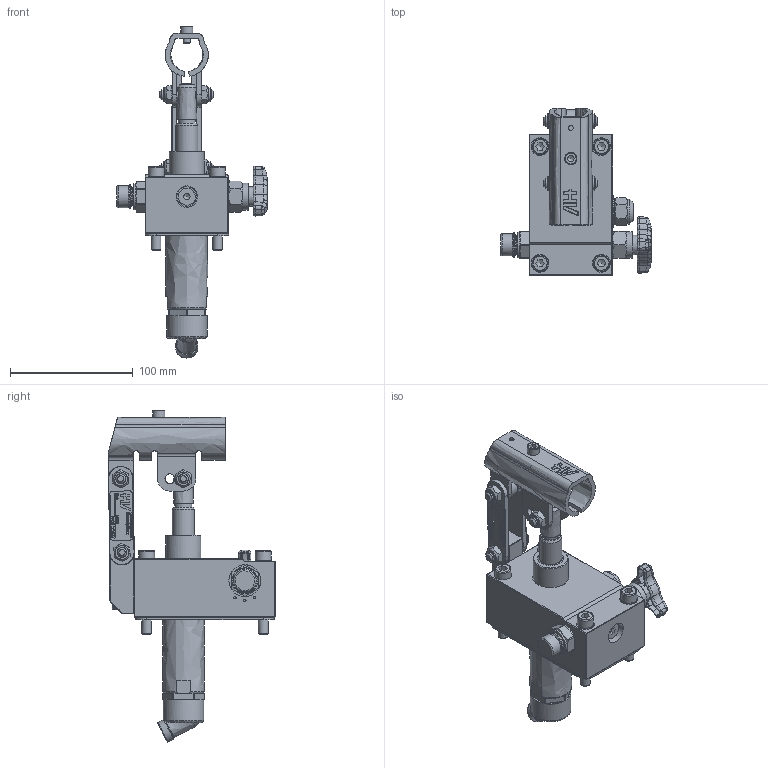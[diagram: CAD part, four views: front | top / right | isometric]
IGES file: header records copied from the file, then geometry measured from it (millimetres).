
Global section: file name: No Iges File Name specified; native system: Autodesk Inventor 2013; preprocessor: AutoDesk Inventor Iges Exporter R2013; author: christian.scardovi; date: 20240228.134229; units: millimetre
Bounding box: 122.5 x 136 x 270.34 mm (x, y, z)
Volume: 543433.3 mm3; surface area: 124202.4 mm2
Topology: 1 solids, 1 shells, 1611 faces, 3989 edges, 2498 vertices
Faces by surface type: bspline 1611
